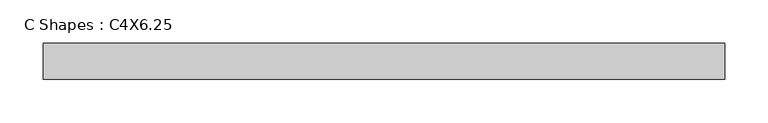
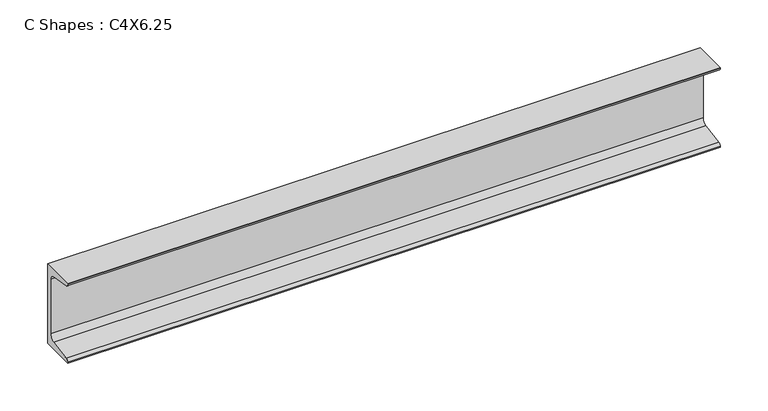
"""IFC4 building model written with IfcOpenShell, lengths in millimetres: beam geometry, C Shapes : C4X6.25."""

import ifcopenshell
import ifcopenshell.guid

model = None  # the IFC model being written
_history = None  # IfcOwnerHistory: only IFC2X3 demands one
_inside = {}  # id of a spatial element -> (the spatial element, [elements in it])
_under = {}  # id of a project, library or spatial element -> (it, [spatial elements below it])
_declared = {}  # id of a project -> (the project, [libraries it declares])
_typed = {}  # id of a type object -> (the type object, [elements of that type])
_made_of = {}  # id of a material, layer set ... -> (it, [elements and type objects made of it])


def new_model(schema):
    """Start an empty IFC model of exactly this schema.

    Asked for "IFC4X3", IfcOpenShell would pick the latest addendum, in which some entities
    have other attributes; the version numbers below select the first issue.
    IFC2X3 requires an IfcOwnerHistory on every rooted entity: one is made here for all.
    """
    global model, _history
    if schema == "IFC4X3":
        model = ifcopenshell.file(schema_version=(4, 3, 0, 0))
    else:
        model = ifcopenshell.file(schema=schema)
    _inside.clear()
    _under.clear()
    _declared.clear()
    _typed.clear()
    _made_of.clear()
    _history = None
    if model.schema == "IFC2X3":
        org = make("IfcOrganization", Name="unknown")
        user = make(
            "IfcPersonAndOrganization",
            ThePerson=make("IfcPerson", FamilyName="unknown"),
            TheOrganization=org,
        )
        app = make(
            "IfcApplication",
            ApplicationDeveloper=org,
            Version="unknown",
            ApplicationFullName="unknown",
            ApplicationIdentifier="unknown",
        )
        _history = make(
            "IfcOwnerHistory",
            OwningUser=user,
            OwningApplication=app,
            ChangeAction="ADDED",
            CreationDate=0,
        )
    return model


def make(cls, **values):
    """One entity of the class cls with the attributes given. An attribute that is None is left unset."""
    return model.create_entity(
        cls, **{name: value for name, value in values.items() if value is not None}
    )


def rooted(cls, **values):
    """An entity with a GlobalId (a new one), such as an element, a storey or a relation."""
    return make(cls, GlobalId=ifcopenshell.guid.new(), OwnerHistory=_history, **values)


def si_unit(unit_type, name, prefix=None):
    """IfcSIUnit, for example si_unit("LENGTHUNIT", "METRE", prefix="MILLI")."""
    return make("IfcSIUnit", UnitType=unit_type, Prefix=prefix, Name=name)


def assignment(units):
    """IfcUnitAssignment: the units of a project."""
    return None if units is None else make("IfcUnitAssignment", Units=units)


def point(xyz):
    """IfcCartesianPoint."""
    return None if xyz is None else make("IfcCartesianPoint", Coordinates=xyz)


def direction(xyz):
    """IfcDirection."""
    return None if xyz is None else make("IfcDirection", DirectionRatios=xyz)


def frame(location, z_axis=None, x_axis=None):
    """IfcAxis2Placement3D, a coordinate frame: its origin and axes. An axis left out is left unset."""
    return make(
        "IfcAxis2Placement3D",
        Location=point(location),
        Axis=direction(z_axis),
        RefDirection=direction(x_axis),
    )


def frame_2d(location, x_axis=None):
    """IfcAxis2Placement2D, a coordinate frame in the plane: its origin and x axis."""
    return make(
        "IfcAxis2Placement2D", Location=point(location), RefDirection=direction(x_axis)
    )


def origin():
    """The frame at (0, 0, 0) with its axes left unset."""
    return frame((0.0, 0.0, 0.0))


def place(relative_to, where):
    """IfcLocalPlacement: puts the frame where relative to a parent placement (None: the world)."""
    return make(
        "IfcLocalPlacement", PlacementRelTo=relative_to, RelativePlacement=where
    )


def context(
    kind, dimensions, precision=None, world=None, true_north=None, identifier=None
):
    """IfcGeometricRepresentationContext, for example the 3D "Model" context."""
    return make(
        "IfcGeometricRepresentationContext",
        ContextIdentifier=identifier,
        ContextType=kind,
        CoordinateSpaceDimension=dimensions,
        Precision=precision,
        WorldCoordinateSystem=world,
        TrueNorth=true_north,
    )


def project(units=None, contexts=None):
    """IfcProject with its units and contexts."""
    return rooted(
        "IfcProject",
        Name="project",
        RepresentationContexts=contexts,
        UnitsInContext=assignment(units),
    )


def spatial(cls, under=None, at=None, **own):
    """A site, building, storey or space (cls), placed at a placement, below another one or the project."""
    s = rooted(cls, ObjectPlacement=at, **own)
    if under is not None:
        _under.setdefault(under.id(), (under, []))[1].append(s)
    return s


def polyline(points):
    """IfcPolyline through the points."""
    return make("IfcPolyline", Points=[point(p) for p in points])


def circle_curve(where, radius):
    """IfcCircle in the frame where."""
    return make("IfcCircle", Position=where, Radius=radius)


def trimmed(basis, trim1, trim2, sense, master):
    """IfcTrimmedCurve: the piece of a basis curve between two trims."""
    return make(
        "IfcTrimmedCurve",
        BasisCurve=basis,
        Trim1=trim1,
        Trim2=trim2,
        SenseAgreement=sense,
        MasterRepresentation=master,
    )


def segment(curve, same_sense, transition):
    """IfcCompositeCurveSegment."""
    return make(
        "IfcCompositeCurveSegment",
        Transition=transition,
        SameSense=same_sense,
        ParentCurve=curve,
    )


def composite_curve(segments, self_intersect=None):
    """IfcCompositeCurve: segments joined end to end."""
    return make("IfcCompositeCurve", Segments=segments, SelfIntersect=self_intersect)


def outline(outer, holes=None, kind="AREA"):
    """IfcArbitraryClosedProfileDef: a profile drawn as a closed curve; with holes, ...WithVoids."""
    if holes is None:
        return make("IfcArbitraryClosedProfileDef", ProfileType=kind, OuterCurve=outer)
    return make(
        "IfcArbitraryProfileDefWithVoids",
        ProfileType=kind,
        OuterCurve=outer,
        InnerCurves=holes,
    )


def extrude(swept, where, along, depth):
    """IfcExtrudedAreaSolid: the profile swept, set in the frame where, extruded along a direction by depth."""
    return make(
        "IfcExtrudedAreaSolid",
        SweptArea=swept,
        Position=where,
        ExtrudedDirection=direction(along),
        Depth=depth,
    )


def shape(context_of_items, identifier, shape_type, items):
    """IfcShapeRepresentation: the items that make up one representation, for example the "Body"."""
    return make(
        "IfcShapeRepresentation",
        ContextOfItems=context_of_items,
        RepresentationIdentifier=identifier,
        RepresentationType=shape_type,
        Items=items,
    )


def source(mapping_origin, context_of_items, identifier, shape_type, items):
    """IfcRepresentationMap: a shape defined once, which mapped items show again and again."""
    return make(
        "IfcRepresentationMap",
        MappingOrigin=mapping_origin,
        MappedRepresentation=shape(context_of_items, identifier, shape_type, items),
    )


def transform(
    local_origin,
    x_axis=None,
    y_axis=None,
    z_axis=None,
    scale=None,
    scale2=None,
    scale3=None,
    uniform=True,
):
    """IfcCartesianTransformationOperator3D, or its non-uniform kind. x_axis, y_axis, z_axis: its Axis1, 2, 3."""
    if uniform:
        return make(
            "IfcCartesianTransformationOperator3D",
            Axis1=direction(x_axis),
            Axis2=direction(y_axis),
            LocalOrigin=point(local_origin),
            Scale=scale,
            Axis3=direction(z_axis),
        )
    return make(
        "IfcCartesianTransformationOperator3DnonUniform",
        Axis1=direction(x_axis),
        Axis2=direction(y_axis),
        LocalOrigin=point(local_origin),
        Scale=scale,
        Axis3=direction(z_axis),
        Scale2=scale2,
        Scale3=scale3,
    )


def mapped(mapping_source, mapping_target):
    """IfcMappedItem: shows the shape of a source again, moved by a transform."""
    return make(
        "IfcMappedItem", MappingSource=mapping_source, MappingTarget=mapping_target
    )


def made_of(thing, what):
    """Note that an element or type object is made of a material, layer set ...; save() writes the relation."""
    if what is not None:
        _made_of.setdefault(what.id(), (what, []))[1].append(thing)
    return thing


def element(
    cls,
    number,
    at=None,
    inside=None,
    cuts=None,
    type_object=None,
    material=None,
    context=None,
    identifier="Body",
    shape_type=None,
    held_by="IfcProductDefinitionShape",
    body=None,
    shapes=None,
    **own,
):
    """One element of the class cls, such as IfcWall. Its Tag is "e" and its number.

    at: its placement. inside: the storey or other place that contains it. cuts: it is an
    opening in that element (IfcRelVoidsElement). A single representation is given by context,
    identifier, shape_type and body (its items); several are given by shapes. held_by: the class
    of the entity that holds the representations. save() writes the other relations.
    """
    e = rooted(cls, Tag="e%d" % number, ObjectPlacement=at, **own)
    if body is not None:
        shapes = [shape(context, identifier, shape_type, body)]
    if shapes is not None:
        e.Representation = make(held_by, Representations=shapes)
    if inside is not None:
        _inside.setdefault(inside.id(), (inside, []))[1].append(e)
    if cuts is not None:
        rooted(
            "IfcRelVoidsElement", RelatingBuildingElement=cuts, RelatedOpeningElement=e
        )
    if type_object is not None:
        _typed.setdefault(type_object.id(), (type_object, []))[1].append(e)
    return made_of(e, material)


def aggregate(whole, parts):
    """IfcRelAggregates: a whole, such as a stair, and the parts it consists of."""
    return rooted("IfcRelAggregates", RelatingObject=whole, RelatedObjects=parts)


def save(model, path):
    """Write the relations noted so far, then the file.

    IfcRelAggregates (storeys below a building ...), IfcRelContainedInSpatialStructure (elements
    in a storey), IfcRelDefinesByType, IfcRelAssociatesMaterial and IfcRelDeclares: one each for
    every whole, place, type object, material and project.
    """
    for whole, parts in _under.values():
        aggregate(whole, parts)
    for where, things in _inside.values():
        rooted(
            "IfcRelContainedInSpatialStructure",
            RelatedElements=things,
            RelatingStructure=where,
        )
    for kind, things in _typed.values():
        rooted("IfcRelDefinesByType", RelatedObjects=things, RelatingType=kind)
    for what, things in _made_of.values():
        rooted("IfcRelAssociatesMaterial", RelatedObjects=things, RelatingMaterial=what)
    for by, libraries in _declared.values():
        rooted("IfcRelDeclares", RelatingContext=by, RelatedDefinitions=libraries)
    model.write(path)


def c_shapes_c4x6_25_a6c6a5e8(model_context):
    return source(origin(), model_context, "Body", "SweptSolid", [
        extrude(outline(composite_curve([segment(polyline([(11.049, 50.8), (11.049, -50.8), (-30.861, -50.8), (-30.861, -49.7865772)]), True, "CONTINUOUS"), segment(trimmed(circle_curve(frame_2d((-27.4066, -49.7865772)), 3.4544), [point((-30.861, -49.7865772))], [point((-27.9743618, -46.379155))], False, "CARTESIAN"), True, "CONTINUOUS"), segment(polyline([(-27.9743618, -46.379155), (-0.9980765, -41.8842311)]), True, "CONTINUOUS"), segment(trimmed(circle_curve(frame_2d((-2.1336, -35.0693868)), 6.9088), [point((-0.9980765, -41.8842311))], [point((4.7752, -35.0693868))], True, "CARTESIAN"), True, "CONTINUOUS"), segment(polyline([(4.7752, -35.0693868), (4.7752, 35.0693868)]), True, "CONTINUOUS"), segment(trimmed(circle_curve(frame_2d((-2.1336, 35.0693868)), 6.9088), [point((4.7752, 35.0693868))], [point((-0.9980765, 41.8842311))], True, "CARTESIAN"), True, "CONTINUOUS"), segment(polyline([(-0.9980765, 41.8842311), (-27.9743618, 46.379155)]), True, "CONTINUOUS"), segment(trimmed(circle_curve(frame_2d((-27.4066, 49.7865772)), 3.4544), [point((-27.9743618, 46.379155))], [point((-30.861, 49.7865772))], False, "CARTESIAN"), True, "CONTINUOUS"), segment(polyline([(-30.861, 49.7865772), (-30.861, 50.8), (11.049, 50.8)]), True, "CONTINUOUS")], self_intersect=False)), frame((-394.462, 0.0, 0.0), z_axis=(1.0, 0.0, 0.0), x_axis=(0.0, 1.0, 0.0)), (0.0, 0.0, 1.0), 788.924),
    ])


if __name__ == "__main__":
    model = new_model("IFC4")
    model_context = context("Model", 3, world=origin())
    ifc_project = project(units=[si_unit("LENGTHUNIT", "METRE", prefix="MILLI")], contexts=[model_context])
    site = spatial("IfcSite", under=ifc_project)
    building = spatial("IfcBuilding", under=site)
    placement = place(None, origin())
    c_shapes_c4x6_25_shape = c_shapes_c4x6_25_a6c6a5e8(model_context)
    element("IfcBeam", 1, ObjectType="C Shapes : C4X6.25", at=placement, inside=building, context=model_context, shape_type="MappedRepresentation", body=[
        mapped(c_shapes_c4x6_25_shape, transform((0.0, 0.0, 0.0), x_axis=(1.0, 0.0, 0.0), y_axis=(0.0, 1.0, 0.0), z_axis=(0.0, 0.0, 1.0))),
    ])
    save(model, "model.ifc")
